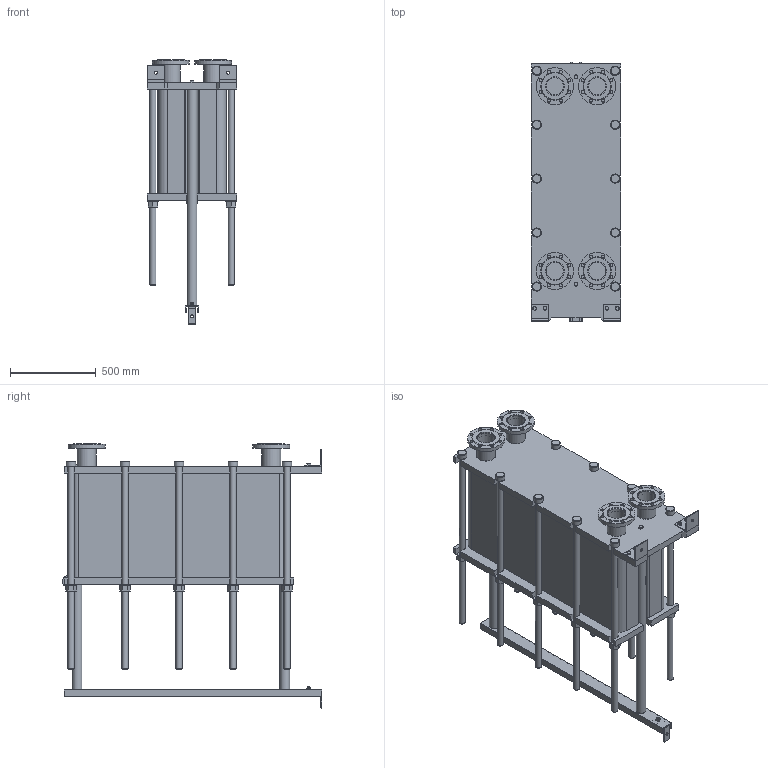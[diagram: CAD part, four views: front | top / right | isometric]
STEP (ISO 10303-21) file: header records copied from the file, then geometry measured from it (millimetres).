
FILE_DESCRIPTION(/* description */ (''),/* implementation_level */ '2;1');
FILE_NAME(/* name */ 'C:\Users\zhuro\Desktop\ENCO\TO\ЭН-04\ЭН-0,5-04-177-1.stp',/* time_stamp */ '2022-06-06T11:00:36+03:00',/* author */ ('zhuro'),/* organization */ (''),/* preprocessor_version */ 'ST-DEVELOPER v18.1',/* originating_system */ 'Autodesk Inventor 2022',/* authorisation */ '');
FILE_SCHEMA (('AUTOMOTIVE_DESIGN { 1 0 10303 214 3 1 1 }'));
Length unit declared in the file: millimetre
Products named in the file (1): ЭН-0,5-04-177-1
Bounding box: 520 x 1510 x 1538.5 mm (x, y, z)
Volume: 380526924.5 mm3; surface area: 10048499.2 mm2
Topology: 45 solids, 45 shells, 668 faces, 1611 edges, 1048 vertices
Faces by surface type: plane 457, cylinder 166, cone 39, torus 6
Full cylindrical faces by diameter (mm): 8 x4, 10 x2, 16 x8, 18 x35, 36 x25, 40 x2, 42 x1, 45 x4, 54 x10, 57 x2, 60 x10, 68 x2, 100 x4, 110 x8, 215 x4
Entity records: 23607 total; most frequent: CARTESIAN_POINT 7348, DIRECTION 3371, ORIENTED_EDGE 3142, EDGE_CURVE 1571, AXIS2_PLACEMENT_3D 1199, VERTEX_POINT 1044, LINE 973, VECTOR 973
